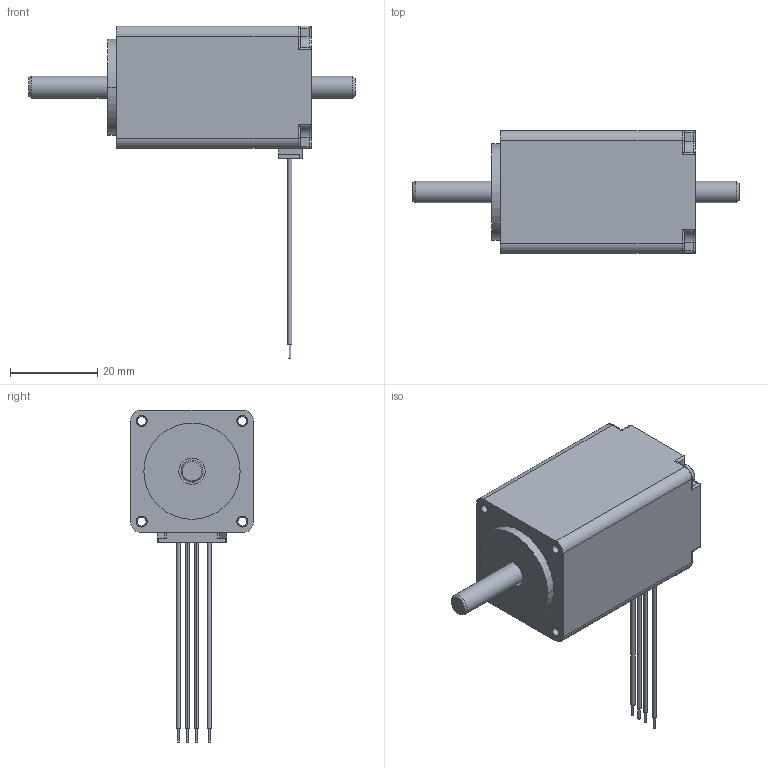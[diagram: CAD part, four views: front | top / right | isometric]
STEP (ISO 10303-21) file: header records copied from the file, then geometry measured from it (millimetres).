
FILE_DESCRIPTION( ('This file contains a STEP AP42 implementation' ,'as created by ZW3D STEP Interface translator.' ,'') ,'2;1' );
FILE_NAME( '28H45H-0XXXB-XXX.stp' ,'26 114.15 613', (''), ('ZWCAD Software Co.'), 'Version 1.0', 'ZW3D to STEP translator', '' );
FILE_SCHEMA(('AUTOMOTIVE_DESIGN { 1 0 10303 214 1 1 1 1 }'));
Length unit declared in the file: millimetre
Products named in the file (1): 0
Bounding box: 74.55 x 28 x 75.9 mm (x, y, z)
Volume: 19455.7 mm3; surface area: 21985 mm2
Topology: 1 solids, 5 shells, 952 faces, 2897 edges, 1805 vertices
Faces by surface type: plane 612, cylinder 298, torus 27, cone 11, bspline 4
Full cylindrical faces by diameter (mm): 0.5 x7, 1 x2, 1.4 x8, 2.8 x4, 3 x4, 4 x1, 4.2 x1, 5 x2, 6 x2, 7 x1, 8 x2, 8.5 x1, 10 x1, 10.5 x1, 14 x1, 16.9 x1
Entity records: 33677 total; most frequent: CARTESIAN_POINT 6107, ORIENTED_EDGE 5770, DIRECTION 5537, EDGE_CURVE 2893, VECTOR 2023, LINE 2023, VERTEX_POINT 1803, AXIS2_PLACEMENT_3D 1757
